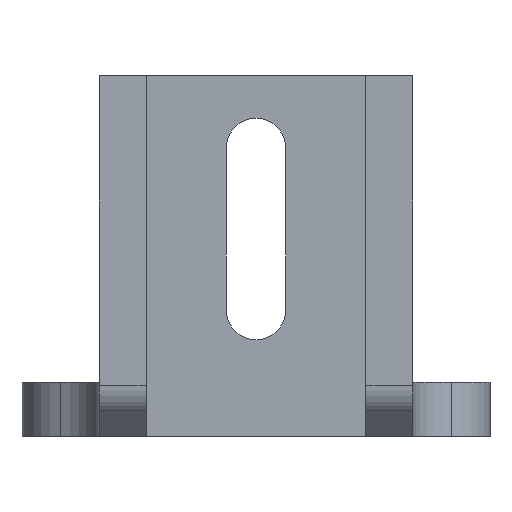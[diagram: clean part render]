
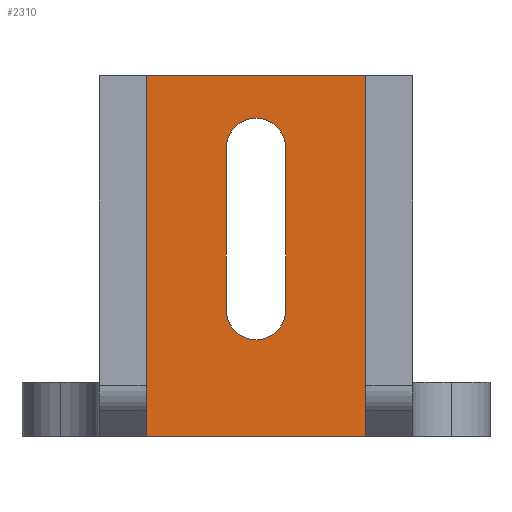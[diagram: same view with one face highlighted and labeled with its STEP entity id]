
A CAD part, front view. The second image highlights one B-rep face of the part: STEP entity #2310.
In plain terms, the highlighted planar face has unit normal (0, -1, 0).
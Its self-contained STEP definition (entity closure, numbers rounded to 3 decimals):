
#54=FACE_BOUND('',#348,.T.);
#136=PLANE('',#2512);
#205=FACE_OUTER_BOUND('',#347,.T.);
#347=EDGE_LOOP('',(#1710,#1711,#1712,#1713));
#348=EDGE_LOOP('',(#1714,#1715,#1716,#1717));
#461=LINE('',#3467,#627);
#505=LINE('',#3759,#671);
#507=LINE('',#3762,#673);
#520=LINE('',#3887,#686);
#522=LINE('',#3891,#688);
#523=LINE('',#3892,#689);
#627=VECTOR('',#2734,1.);
#671=VECTOR('',#2894,1.);
#673=VECTOR('',#2898,1.);
#686=VECTOR('',#2955,1.);
#688=VECTOR('',#2959,1.);
#689=VECTOR('',#2960,1.);
#812=CIRCLE('',#2478,1.65);
#814=CIRCLE('',#2481,1.65);
#929=VERTEX_POINT('',#3464);
#930=VERTEX_POINT('',#3466);
#993=VERTEX_POINT('',#3720);
#994=VERTEX_POINT('',#3721);
#997=VERTEX_POINT('',#3729);
#998=VERTEX_POINT('',#3730);
#1022=VERTEX_POINT('',#3885);
#1023=VERTEX_POINT('',#3890);
#1154=EDGE_CURVE('',#930,#929,#461,.F.);
#1232=EDGE_CURVE('',#993,#994,#812,.T.);
#1236=EDGE_CURVE('',#997,#998,#814,.T.);
#1245=EDGE_CURVE('',#997,#994,#505,.T.);
#1247=EDGE_CURVE('',#993,#998,#507,.T.);
#1280=EDGE_CURVE('',#929,#1022,#520,.T.);
#1282=EDGE_CURVE('',#930,#1023,#522,.T.);
#1283=EDGE_CURVE('',#1023,#1022,#523,.F.);
#1710=ORIENTED_EDGE('',*,*,#1282,.F.);
#1711=ORIENTED_EDGE('',*,*,#1154,.T.);
#1712=ORIENTED_EDGE('',*,*,#1280,.T.);
#1713=ORIENTED_EDGE('',*,*,#1283,.F.);
#1714=ORIENTED_EDGE('',*,*,#1245,.F.);
#1715=ORIENTED_EDGE('',*,*,#1236,.T.);
#1716=ORIENTED_EDGE('',*,*,#1247,.F.);
#1717=ORIENTED_EDGE('',*,*,#1232,.T.);
#2310=ADVANCED_FACE('',(#205,#54),#136,.F.);
#2478=AXIS2_PLACEMENT_3D('',#3722,#2867,#2868);
#2481=AXIS2_PLACEMENT_3D('',#3731,#2875,#2876);
#2512=AXIS2_PLACEMENT_3D('',#3889,#2957,#2958);
#2734=DIRECTION('',(-1.,0.,0.));
#2867=DIRECTION('center_axis',(0.,1.,0.));
#2868=DIRECTION('ref_axis',(0.,0.,-1.));
#2875=DIRECTION('center_axis',(0.,1.,0.));
#2876=DIRECTION('ref_axis',(0.,0.,-1.));
#2894=DIRECTION('',(0.,0.,1.));
#2898=DIRECTION('',(0.,0.,-1.));
#2955=DIRECTION('',(0.,0.,1.));
#2957=DIRECTION('center_axis',(0.,1.,0.));
#2958=DIRECTION('ref_axis',(-1.,0.,0.));
#2959=DIRECTION('',(0.,0.,1.));
#2960=DIRECTION('',(-1.,0.,0.));
#3464=CARTESIAN_POINT('',(6.1,-18.,0.));
#3466=CARTESIAN_POINT('',(-6.1,-18.,0.));
#3467=CARTESIAN_POINT('',(0.,-18.,0.));
#3720=CARTESIAN_POINT('',(-1.65,-18.,16.));
#3721=CARTESIAN_POINT('',(1.65,-18.,16.));
#3722=CARTESIAN_POINT('Origin',(0.,-18.,16.));
#3729=CARTESIAN_POINT('',(1.65,-18.,7.));
#3730=CARTESIAN_POINT('',(-1.65,-18.,7.));
#3731=CARTESIAN_POINT('Origin',(0.,-18.,7.));
#3759=CARTESIAN_POINT('',(1.65,-18.,11.5));
#3762=CARTESIAN_POINT('',(-1.65,-18.,11.5));
#3885=CARTESIAN_POINT('',(6.1,-18.,20.));
#3887=CARTESIAN_POINT('',(6.1,-18.,10.));
#3889=CARTESIAN_POINT('Origin',(6.1,-18.,0.));
#3890=CARTESIAN_POINT('',(-6.1,-18.,20.));
#3891=CARTESIAN_POINT('',(-6.1,-18.,10.));
#3892=CARTESIAN_POINT('',(0.,-18.,20.));
